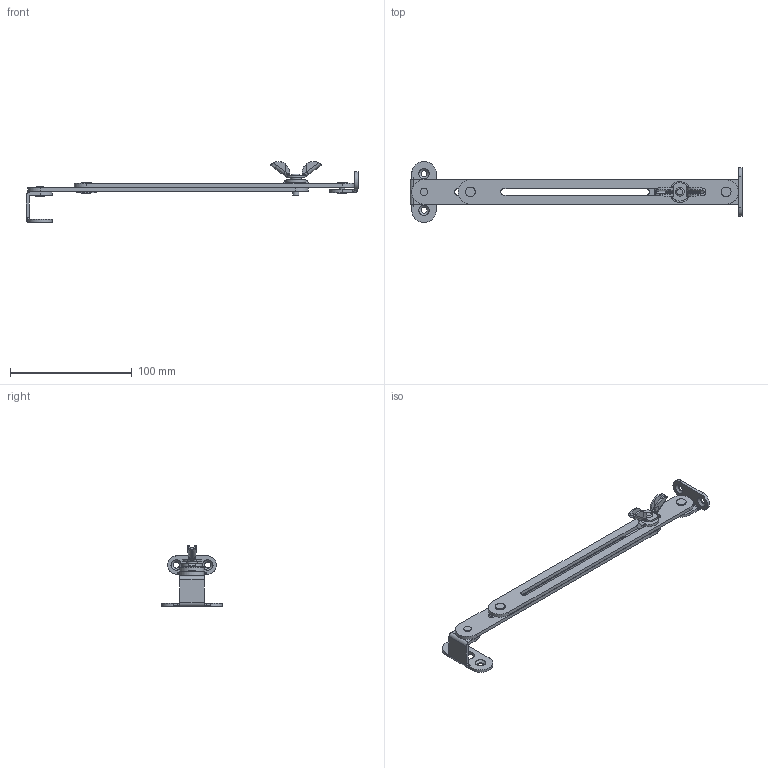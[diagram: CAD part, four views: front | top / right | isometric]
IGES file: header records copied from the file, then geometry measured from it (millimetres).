
Global section: file name: DR_SY-9; native system: Autodesk Inventor 2015; preprocessor: unknown; author: user; date: 20180309.174158; units: millimetre
Bounding box: 272.5 x 50 x 50 mm (x, y, z)
Volume: 30525.5 mm3; surface area: 28772 mm2
Topology: 6 solids, 6 shells, 186 faces, 482 edges, 323 vertices
Faces by surface type: bspline 186
